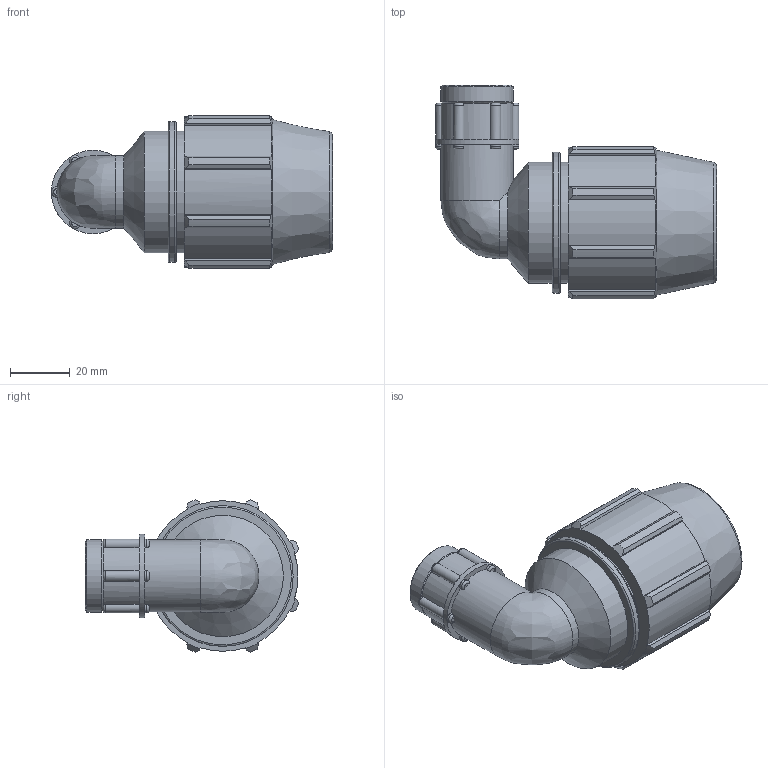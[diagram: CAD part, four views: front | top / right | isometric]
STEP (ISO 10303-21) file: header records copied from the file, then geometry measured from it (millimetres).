
FILE_DESCRIPTION(/* description */ ('PLASSON 90° ELBOW FEMALE ADAPTOR 3/4'''' - 1/2''''F'),/* implementation_level */ '2;1');
FILE_NAME(/* name */ 'C:\Dropbox\KIMPROJECTS-Inventor 2019\99-16-3568-Processing Inch\ASTM Compression 2021\0715M0\0715M0007005.ipt.stp',/* time_stamp */ '2021-08-26T12:33:41+03:00',/* author */ ('KIM'),/* organization */ (''),/* preprocessor_version */ 'ST-DEVELOPER v17.2',/* originating_system */ 'Autodesk Inventor 2019',/* authorisation */ '');
FILE_SCHEMA (('AUTOMOTIVE_DESIGN { 1 0 10303 214 3 1 1 }'));
Length unit declared in the file: inch
Products named in the file (1): 0715M0007005
Bounding box: 93.94 x 71.43 x 50.91 mm (x, y, z)
Volume: 94207.8 mm3; surface area: 26872.7 mm2
Topology: 1 solids, 1 shells, 139 faces, 395 edges, 262 vertices
Faces by surface type: plane 60, cylinder 46, cone 16, torus 15, bspline 2
Full cylindrical faces by diameter (mm): 13.042 x1, 16.768 x1, 18.631 x1, 24.22 x2, 26.6 x1, 27.853 x1, 40.576 x2, 47.069 x1
Entity records: 5046 total; most frequent: CARTESIAN_POINT 1199, DIRECTION 799, ORIENTED_EDGE 782, EDGE_CURVE 391, AXIS2_PLACEMENT_3D 330, VERTEX_POINT 262, CIRCLE 188, EDGE_LOOP 149
